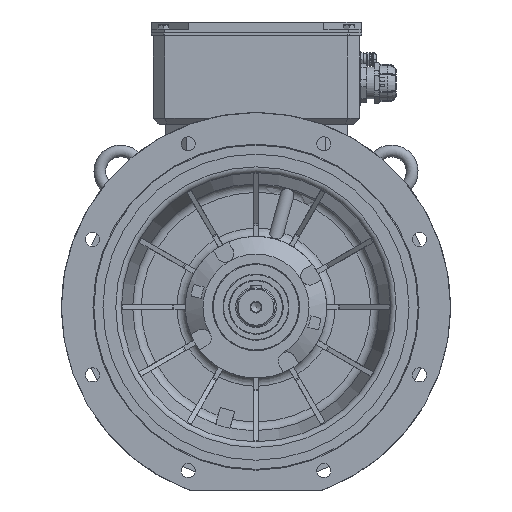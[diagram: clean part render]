
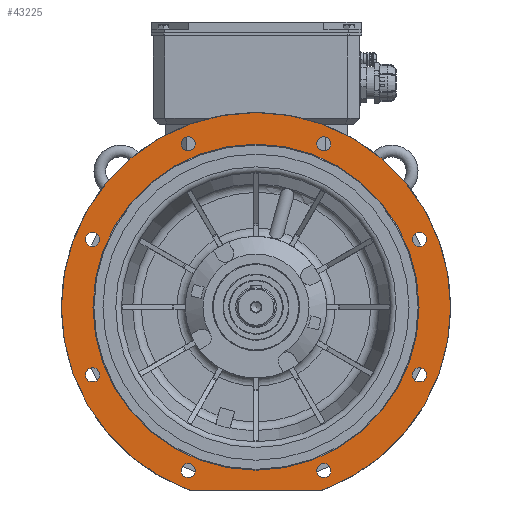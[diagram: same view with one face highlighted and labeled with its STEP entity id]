
A CAD part, front view. The second image highlights one B-rep face of the part: STEP entity #43225.
In plain terms, the highlighted planar face has unit normal (0, -1, 0).
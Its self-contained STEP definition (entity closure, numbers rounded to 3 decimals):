
#1762=PLANE('',#45617);
#2204=CIRCLE('',#44378,3.);
#2205=CIRCLE('',#44380,3.);
#2206=CIRCLE('',#44382,330.);
#2575=CIRCLE('',#45296,12.);
#2577=CIRCLE('',#45299,12.);
#2579=CIRCLE('',#45302,12.);
#2581=CIRCLE('',#45305,12.);
#2583=CIRCLE('',#45308,12.);
#2585=CIRCLE('',#45311,12.);
#2587=CIRCLE('',#45314,12.);
#2589=CIRCLE('',#45317,12.);
#2698=CIRCLE('',#45618,276.4);
#8207=ORIENTED_EDGE('',*,*,#13467,.T.);
#8208=ORIENTED_EDGE('',*,*,#15335,.F.);
#8209=ORIENTED_EDGE('',*,*,#13464,.T.);
#8210=ORIENTED_EDGE('',*,*,#13470,.F.);
#8211=ORIENTED_EDGE('',*,*,#15119,.F.);
#8212=ORIENTED_EDGE('',*,*,#15121,.F.);
#8213=ORIENTED_EDGE('',*,*,#15123,.F.);
#8214=ORIENTED_EDGE('',*,*,#15125,.F.);
#8215=ORIENTED_EDGE('',*,*,#15127,.F.);
#8216=ORIENTED_EDGE('',*,*,#15129,.F.);
#8217=ORIENTED_EDGE('',*,*,#15131,.F.);
#8218=ORIENTED_EDGE('',*,*,#15133,.F.);
#8219=ORIENTED_EDGE('',*,*,#15603,.F.);
#13464=EDGE_CURVE('',#18108,#18109,#2204,.F.);
#13467=EDGE_CURVE('',#18110,#18111,#2205,.F.);
#13470=EDGE_CURVE('',#18110,#18109,#2206,.T.);
#15119=EDGE_CURVE('',#19246,#19246,#2575,.F.);
#15121=EDGE_CURVE('',#19248,#19248,#2577,.F.);
#15123=EDGE_CURVE('',#19250,#19250,#2579,.F.);
#15125=EDGE_CURVE('',#19252,#19252,#2581,.F.);
#15127=EDGE_CURVE('',#19254,#19254,#2583,.F.);
#15129=EDGE_CURVE('',#19256,#19256,#2585,.F.);
#15131=EDGE_CURVE('',#19258,#19258,#2587,.F.);
#15133=EDGE_CURVE('',#19260,#19260,#2589,.F.);
#15335=EDGE_CURVE('',#18108,#18111,#22413,.T.);
#15603=EDGE_CURVE('',#19553,#19553,#2698,.F.);
#18108=VERTEX_POINT('',#57842);
#18109=VERTEX_POINT('',#57843);
#18110=VERTEX_POINT('',#57848);
#18111=VERTEX_POINT('',#57849);
#19246=VERTEX_POINT('',#65379);
#19248=VERTEX_POINT('',#65384);
#19250=VERTEX_POINT('',#65389);
#19252=VERTEX_POINT('',#65394);
#19254=VERTEX_POINT('',#65399);
#19256=VERTEX_POINT('',#65404);
#19258=VERTEX_POINT('',#65409);
#19260=VERTEX_POINT('',#65414);
#19553=VERTEX_POINT('',#66833);
#22413=LINE('',#65900,#24745);
#24745=VECTOR('',#51380,1000.);
#26524=EDGE_LOOP('',(#8207,#8208,#8209,#8210));
#26525=EDGE_LOOP('',(#8211));
#26526=EDGE_LOOP('',(#8212));
#26527=EDGE_LOOP('',(#8213));
#26528=EDGE_LOOP('',(#8214));
#26529=EDGE_LOOP('',(#8215));
#26530=EDGE_LOOP('',(#8216));
#26531=EDGE_LOOP('',(#8217));
#26532=EDGE_LOOP('',(#8218));
#26533=EDGE_LOOP('',(#8219));
#28524=FACE_BOUND('',#26524,.T.);
#28525=FACE_BOUND('',#26525,.T.);
#28526=FACE_BOUND('',#26526,.T.);
#28527=FACE_BOUND('',#26527,.T.);
#28528=FACE_BOUND('',#26528,.T.);
#28529=FACE_BOUND('',#26529,.T.);
#28530=FACE_BOUND('',#26530,.T.);
#28531=FACE_BOUND('',#26531,.T.);
#28532=FACE_BOUND('',#26532,.T.);
#28533=FACE_BOUND('',#26533,.T.);
#43225=ADVANCED_FACE('',(#28524,#28525,#28526,#28527,#28528,#28529,#28530,
#28531,#28532,#28533),#1762,.F.);
#44378=AXIS2_PLACEMENT_3D('',#57841,#48045,#48046);
#44380=AXIS2_PLACEMENT_3D('',#57847,#48051,#48052);
#44382=AXIS2_PLACEMENT_3D('',#57853,#48057,#48058);
#45296=AXIS2_PLACEMENT_3D('',#65378,#50980,#50981);
#45299=AXIS2_PLACEMENT_3D('',#65383,#50986,#50987);
#45302=AXIS2_PLACEMENT_3D('',#65388,#50992,#50993);
#45305=AXIS2_PLACEMENT_3D('',#65393,#50998,#50999);
#45308=AXIS2_PLACEMENT_3D('',#65398,#51004,#51005);
#45311=AXIS2_PLACEMENT_3D('',#65403,#51010,#51011);
#45314=AXIS2_PLACEMENT_3D('',#65408,#51016,#51017);
#45317=AXIS2_PLACEMENT_3D('',#65413,#51022,#51023);
#45617=AXIS2_PLACEMENT_3D('',#66831,#51861,#51862);
#45618=AXIS2_PLACEMENT_3D('',#66832,#51863,#51864);
#48045=DIRECTION('',(0.,1.,0.));
#48046=DIRECTION('',(0.,0.,1.));
#48051=DIRECTION('',(0.,1.,0.));
#48052=DIRECTION('',(0.,0.,1.));
#48057=DIRECTION('',(0.,1.,0.));
#48058=DIRECTION('',(0.,0.,1.));
#50980=DIRECTION('',(0.,1.,0.));
#50981=DIRECTION('',(0.,0.,1.));
#50986=DIRECTION('',(0.,1.,0.));
#50987=DIRECTION('',(0.,0.,1.));
#50992=DIRECTION('',(0.,1.,0.));
#50993=DIRECTION('',(0.,0.,1.));
#50998=DIRECTION('',(0.,1.,0.));
#50999=DIRECTION('',(0.,0.,1.));
#51004=DIRECTION('',(0.,1.,0.));
#51005=DIRECTION('',(0.,0.,1.));
#51010=DIRECTION('',(0.,1.,0.));
#51011=DIRECTION('',(0.,0.,1.));
#51016=DIRECTION('',(0.,1.,0.));
#51017=DIRECTION('',(0.,0.,1.));
#51022=DIRECTION('',(0.,1.,0.));
#51023=DIRECTION('',(0.,0.,1.));
#51380=DIRECTION('',(-1.,0.,0.));
#51861=DIRECTION('',(0.,1.,0.));
#51862=DIRECTION('',(1.,0.,0.));
#51863=DIRECTION('',(0.,1.,0.));
#51864=DIRECTION('',(0.,0.,1.));
#57841=CARTESIAN_POINT('',(112.606,-104.997,-307.));
#57842=CARTESIAN_POINT('',(112.606,-104.997,-310.));
#57843=CARTESIAN_POINT('',(113.639,-104.997,-309.817));
#57847=CARTESIAN_POINT('',(-112.606,-104.997,-307.));
#57848=CARTESIAN_POINT('',(-113.639,-104.997,-309.817));
#57849=CARTESIAN_POINT('',(-112.606,-104.997,-310.));
#57853=CARTESIAN_POINT('',(0.,-104.997,0.));
#65378=CARTESIAN_POINT('',(-277.164,-104.997,114.805));
#65379=CARTESIAN_POINT('',(-277.164,-104.997,126.805));
#65383=CARTESIAN_POINT('',(-277.164,-104.997,-114.805));
#65384=CARTESIAN_POINT('',(-277.164,-104.997,-102.805));
#65388=CARTESIAN_POINT('',(-114.805,-104.997,-277.164));
#65389=CARTESIAN_POINT('',(-114.805,-104.997,-265.164));
#65393=CARTESIAN_POINT('',(114.805,-104.997,-277.164));
#65394=CARTESIAN_POINT('',(114.805,-104.997,-265.164));
#65398=CARTESIAN_POINT('',(277.164,-104.997,-114.805));
#65399=CARTESIAN_POINT('',(277.164,-104.997,-102.805));
#65403=CARTESIAN_POINT('',(277.164,-104.997,114.805));
#65404=CARTESIAN_POINT('',(277.164,-104.997,126.805));
#65408=CARTESIAN_POINT('',(114.805,-104.997,277.164));
#65409=CARTESIAN_POINT('',(114.805,-104.997,289.164));
#65413=CARTESIAN_POINT('',(-114.805,-104.997,277.164));
#65414=CARTESIAN_POINT('',(-114.805,-104.997,289.164));
#65900=CARTESIAN_POINT('',(-113.137,-104.997,-310.));
#66831=CARTESIAN_POINT('',(0.,-104.997,276.4));
#66832=CARTESIAN_POINT('',(0.,-104.997,0.));
#66833=CARTESIAN_POINT('',(0.,-104.997,276.4));
